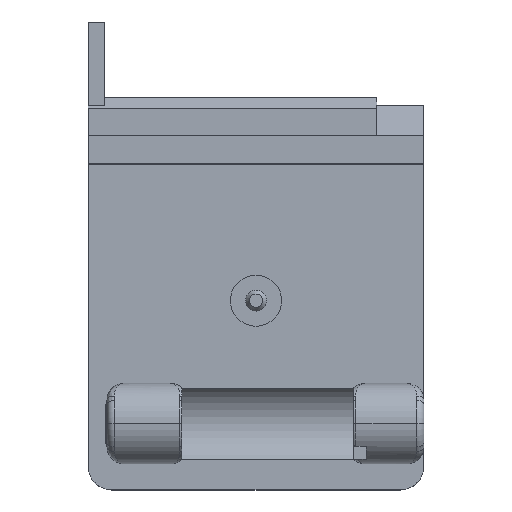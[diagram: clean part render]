
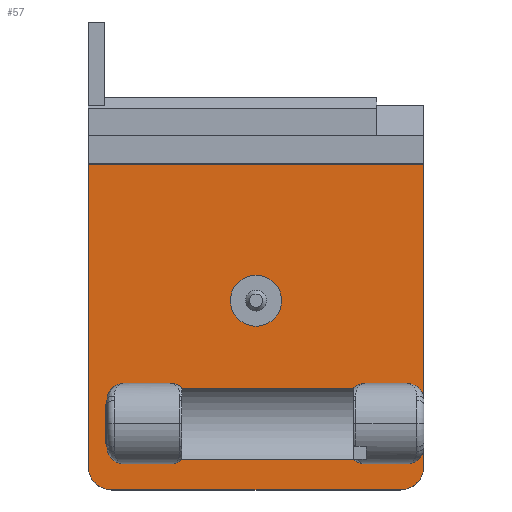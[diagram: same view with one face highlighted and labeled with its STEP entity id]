
A CAD part, top view. The second image highlights one B-rep face of the part: STEP entity #57.
In plain terms, the highlighted planar face has unit normal (0, 0, 1).
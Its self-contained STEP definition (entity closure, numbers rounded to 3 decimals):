
#21 = EDGE_CURVE('',#22,#24,#26,.T.);
#22 = VERTEX_POINT('',#23);
#23 = CARTESIAN_POINT('',(-210.,-117.5,-7.25));
#24 = VERTEX_POINT('',#25);
#25 = CARTESIAN_POINT('',(-210.,-85.57,-7.25));
#26 = LINE('',#27,#28);
#27 = CARTESIAN_POINT('',(-210.,-120.,-7.25));
#28 = VECTOR('',#29,1.);
#29 = DIRECTION('',(-0.,1.,0.));
#57 = ADVANCED_FACE('',(#58,#269),#280,.T.);
#58 = FACE_BOUND('',#59,.T.);
#59 = EDGE_LOOP('',(#60,#61,#70,#78,#87,#95,#104,#112,#121,#129,#138,
    #146,#155,#163,#171,#179,#187,#195,#204,#212,#221,#229,#238,#246,
    #255,#263));
#60 = ORIENTED_EDGE('',*,*,#21,.F.);
#61 = ORIENTED_EDGE('',*,*,#62,.T.);
#62 = EDGE_CURVE('',#22,#63,#65,.T.);
#63 = VERTEX_POINT('',#64);
#64 = CARTESIAN_POINT('',(-207.5,-120.,-7.25));
#65 = CIRCLE('',#66,2.5);
#66 = AXIS2_PLACEMENT_3D('',#67,#68,#69);
#67 = CARTESIAN_POINT('',(-207.5,-117.5,-7.25));
#68 = DIRECTION('',(0.,0.,1.));
#69 = DIRECTION('',(0.,-1.,0.));
#70 = ORIENTED_EDGE('',*,*,#71,.T.);
#71 = EDGE_CURVE('',#63,#72,#74,.T.);
#72 = VERTEX_POINT('',#73);
#73 = CARTESIAN_POINT('',(-177.,-120.,-7.25));
#74 = LINE('',#75,#76);
#75 = CARTESIAN_POINT('',(-210.,-120.,-7.25));
#76 = VECTOR('',#77,1.);
#77 = DIRECTION('',(1.,0.,-0.));
#78 = ORIENTED_EDGE('',*,*,#79,.F.);
#79 = EDGE_CURVE('',#80,#72,#82,.T.);
#80 = VERTEX_POINT('',#81);
#81 = CARTESIAN_POINT('',(-174.5,-117.5,-7.25));
#82 = CIRCLE('',#83,2.5);
#83 = AXIS2_PLACEMENT_3D('',#84,#85,#86);
#84 = CARTESIAN_POINT('',(-177.,-117.5,-7.25));
#85 = DIRECTION('',(-0.,-0.,-1.));
#86 = DIRECTION('',(0.,-1.,0.));
#87 = ORIENTED_EDGE('',*,*,#88,.T.);
#88 = EDGE_CURVE('',#80,#89,#91,.T.);
#89 = VERTEX_POINT('',#90);
#90 = CARTESIAN_POINT('',(-174.5,-115.45,-7.25));
#91 = LINE('',#92,#93);
#92 = CARTESIAN_POINT('',(-174.5,-120.,-7.25));
#93 = VECTOR('',#94,1.);
#94 = DIRECTION('',(-0.,1.,0.));
#95 = ORIENTED_EDGE('',*,*,#96,.F.);
#96 = EDGE_CURVE('',#97,#89,#99,.T.);
#97 = VERTEX_POINT('',#98);
#98 = CARTESIAN_POINT('',(-176.3,-117.25,-7.25));
#99 = CIRCLE('',#100,1.8);
#100 = AXIS2_PLACEMENT_3D('',#101,#102,#103);
#101 = CARTESIAN_POINT('',(-176.3,-115.45,-7.25));
#102 = DIRECTION('',(0.,0.,1.));
#103 = DIRECTION('',(1.,0.,-0.));
#104 = ORIENTED_EDGE('',*,*,#105,.T.);
#105 = EDGE_CURVE('',#97,#106,#108,.T.);
#106 = VERTEX_POINT('',#107);
#107 = CARTESIAN_POINT('',(-180.7,-117.25,-7.25));
#108 = LINE('',#109,#110);
#109 = CARTESIAN_POINT('',(-196.25,-117.25,-7.25));
#110 = VECTOR('',#111,1.);
#111 = DIRECTION('',(-1.,-0.,0.));
#112 = ORIENTED_EDGE('',*,*,#113,.F.);
#113 = EDGE_CURVE('',#114,#106,#116,.T.);
#114 = VERTEX_POINT('',#115);
#115 = CARTESIAN_POINT('',(-181.954,-116.742,-7.25));
#116 = CIRCLE('',#117,1.8);
#117 = AXIS2_PLACEMENT_3D('',#118,#119,#120);
#118 = CARTESIAN_POINT('',(-180.7,-115.45,-7.25));
#119 = DIRECTION('',(0.,0.,1.));
#120 = DIRECTION('',(-1.,-0.,0.));
#121 = ORIENTED_EDGE('',*,*,#122,.F.);
#122 = EDGE_CURVE('',#123,#114,#125,.T.);
#123 = VERTEX_POINT('',#124);
#124 = CARTESIAN_POINT('',(-200.046,-116.742,-7.25));
#125 = LINE('',#126,#127);
#126 = CARTESIAN_POINT('',(-200.1,-116.742,-7.25));
#127 = VECTOR('',#128,1.);
#128 = DIRECTION('',(1.,0.,0.));
#129 = ORIENTED_EDGE('',*,*,#130,.F.);
#130 = EDGE_CURVE('',#131,#123,#133,.T.);
#131 = VERTEX_POINT('',#132);
#132 = CARTESIAN_POINT('',(-201.3,-117.25,-7.25));
#133 = CIRCLE('',#134,1.8);
#134 = AXIS2_PLACEMENT_3D('',#135,#136,#137);
#135 = CARTESIAN_POINT('',(-201.3,-115.45,-7.25));
#136 = DIRECTION('',(0.,0.,1.));
#137 = DIRECTION('',(1.,0.,-0.));
#138 = ORIENTED_EDGE('',*,*,#139,.T.);
#139 = EDGE_CURVE('',#131,#140,#142,.T.);
#140 = VERTEX_POINT('',#141);
#141 = CARTESIAN_POINT('',(-206.2,-117.25,-7.25));
#142 = LINE('',#143,#144);
#143 = CARTESIAN_POINT('',(-209.,-117.25,-7.25));
#144 = VECTOR('',#145,1.);
#145 = DIRECTION('',(-1.,-0.,0.));
#146 = ORIENTED_EDGE('',*,*,#147,.F.);
#147 = EDGE_CURVE('',#148,#140,#150,.T.);
#148 = VERTEX_POINT('',#149);
#149 = CARTESIAN_POINT('',(-208.,-115.45,-7.25));
#150 = CIRCLE('',#151,1.8);
#151 = AXIS2_PLACEMENT_3D('',#152,#153,#154);
#152 = CARTESIAN_POINT('',(-206.2,-115.45,-7.25));
#153 = DIRECTION('',(0.,0.,1.));
#154 = DIRECTION('',(-1.,-0.,0.));
#155 = ORIENTED_EDGE('',*,*,#156,.T.);
#156 = EDGE_CURVE('',#148,#157,#159,.T.);
#157 = VERTEX_POINT('',#158);
#158 = CARTESIAN_POINT('',(-208.,-115.077,-7.25));
#159 = LINE('',#160,#161);
#160 = CARTESIAN_POINT('',(-208.,-118.625,-7.25));
#161 = VECTOR('',#162,1.);
#162 = DIRECTION('',(-0.,1.,0.));
#163 = ORIENTED_EDGE('',*,*,#164,.F.);
#164 = EDGE_CURVE('',#165,#157,#167,.T.);
#165 = VERTEX_POINT('',#166);
#166 = CARTESIAN_POINT('',(-208.1,-115.077,-7.25));
#167 = LINE('',#168,#169);
#168 = CARTESIAN_POINT('',(-208.1,-115.077,-7.25));
#169 = VECTOR('',#170,1.);
#170 = DIRECTION('',(1.,0.,0.));
#171 = ORIENTED_EDGE('',*,*,#172,.T.);
#172 = EDGE_CURVE('',#165,#173,#175,.T.);
#173 = VERTEX_POINT('',#174);
#174 = CARTESIAN_POINT('',(-208.1,-110.923,-7.25));
#175 = LINE('',#176,#177);
#176 = CARTESIAN_POINT('',(-208.1,-116.5,-7.25));
#177 = VECTOR('',#178,1.);
#178 = DIRECTION('',(0.,1.,0.));
#179 = ORIENTED_EDGE('',*,*,#180,.T.);
#180 = EDGE_CURVE('',#173,#181,#183,.T.);
#181 = VERTEX_POINT('',#182);
#182 = CARTESIAN_POINT('',(-208.,-110.923,-7.25));
#183 = LINE('',#184,#185);
#184 = CARTESIAN_POINT('',(-208.1,-110.923,-7.25));
#185 = VECTOR('',#186,1.);
#186 = DIRECTION('',(1.,0.,0.));
#187 = ORIENTED_EDGE('',*,*,#188,.T.);
#188 = EDGE_CURVE('',#181,#189,#191,.T.);
#189 = VERTEX_POINT('',#190);
#190 = CARTESIAN_POINT('',(-208.,-110.55,-7.25));
#191 = LINE('',#192,#193);
#192 = CARTESIAN_POINT('',(-208.,-118.625,-7.25));
#193 = VECTOR('',#194,1.);
#194 = DIRECTION('',(-0.,1.,0.));
#195 = ORIENTED_EDGE('',*,*,#196,.F.);
#196 = EDGE_CURVE('',#197,#189,#199,.T.);
#197 = VERTEX_POINT('',#198);
#198 = CARTESIAN_POINT('',(-206.2,-108.75,-7.25));
#199 = CIRCLE('',#200,1.8);
#200 = AXIS2_PLACEMENT_3D('',#201,#202,#203);
#201 = CARTESIAN_POINT('',(-206.2,-110.55,-7.25));
#202 = DIRECTION('',(0.,0.,1.));
#203 = DIRECTION('',(-1.,-0.,0.));
#204 = ORIENTED_EDGE('',*,*,#205,.F.);
#205 = EDGE_CURVE('',#206,#197,#208,.T.);
#206 = VERTEX_POINT('',#207);
#207 = CARTESIAN_POINT('',(-201.3,-108.75,-7.25));
#208 = LINE('',#209,#210);
#209 = CARTESIAN_POINT('',(-209.,-108.75,-7.25));
#210 = VECTOR('',#211,1.);
#211 = DIRECTION('',(-1.,-0.,0.));
#212 = ORIENTED_EDGE('',*,*,#213,.F.);
#213 = EDGE_CURVE('',#214,#206,#216,.T.);
#214 = VERTEX_POINT('',#215);
#215 = CARTESIAN_POINT('',(-200.046,-109.258,-7.25));
#216 = CIRCLE('',#217,1.8);
#217 = AXIS2_PLACEMENT_3D('',#218,#219,#220);
#218 = CARTESIAN_POINT('',(-201.3,-110.55,-7.25));
#219 = DIRECTION('',(0.,0.,1.));
#220 = DIRECTION('',(1.,0.,-0.));
#221 = ORIENTED_EDGE('',*,*,#222,.T.);
#222 = EDGE_CURVE('',#214,#223,#225,.T.);
#223 = VERTEX_POINT('',#224);
#224 = CARTESIAN_POINT('',(-181.954,-109.258,-7.25));
#225 = LINE('',#226,#227);
#226 = CARTESIAN_POINT('',(-200.1,-109.258,-7.25));
#227 = VECTOR('',#228,1.);
#228 = DIRECTION('',(1.,0.,0.));
#229 = ORIENTED_EDGE('',*,*,#230,.F.);
#230 = EDGE_CURVE('',#231,#223,#233,.T.);
#231 = VERTEX_POINT('',#232);
#232 = CARTESIAN_POINT('',(-180.7,-108.75,-7.25));
#233 = CIRCLE('',#234,1.8);
#234 = AXIS2_PLACEMENT_3D('',#235,#236,#237);
#235 = CARTESIAN_POINT('',(-180.7,-110.55,-7.25));
#236 = DIRECTION('',(0.,0.,1.));
#237 = DIRECTION('',(-1.,-0.,0.));
#238 = ORIENTED_EDGE('',*,*,#239,.F.);
#239 = EDGE_CURVE('',#240,#231,#242,.T.);
#240 = VERTEX_POINT('',#241);
#241 = CARTESIAN_POINT('',(-176.3,-108.75,-7.25));
#242 = LINE('',#243,#244);
#243 = CARTESIAN_POINT('',(-196.25,-108.75,-7.25));
#244 = VECTOR('',#245,1.);
#245 = DIRECTION('',(-1.,-0.,0.));
#246 = ORIENTED_EDGE('',*,*,#247,.F.);
#247 = EDGE_CURVE('',#248,#240,#250,.T.);
#248 = VERTEX_POINT('',#249);
#249 = CARTESIAN_POINT('',(-174.5,-110.55,-7.25));
#250 = CIRCLE('',#251,1.8);
#251 = AXIS2_PLACEMENT_3D('',#252,#253,#254);
#252 = CARTESIAN_POINT('',(-176.3,-110.55,-7.25));
#253 = DIRECTION('',(0.,0.,1.));
#254 = DIRECTION('',(1.,0.,-0.));
#255 = ORIENTED_EDGE('',*,*,#256,.T.);
#256 = EDGE_CURVE('',#248,#257,#259,.T.);
#257 = VERTEX_POINT('',#258);
#258 = CARTESIAN_POINT('',(-174.5,-85.57,-7.25));
#259 = LINE('',#260,#261);
#260 = CARTESIAN_POINT('',(-174.5,-120.,-7.25));
#261 = VECTOR('',#262,1.);
#262 = DIRECTION('',(-0.,1.,0.));
#263 = ORIENTED_EDGE('',*,*,#264,.T.);
#264 = EDGE_CURVE('',#257,#24,#265,.T.);
#265 = LINE('',#266,#267);
#266 = CARTESIAN_POINT('',(-210.,-85.57,-7.25));
#267 = VECTOR('',#268,1.);
#268 = DIRECTION('',(-1.,-0.,0.));
#269 = FACE_BOUND('',#270,.T.);
#270 = EDGE_LOOP('',(#271));
#271 = ORIENTED_EDGE('',*,*,#272,.F.);
#272 = EDGE_CURVE('',#273,#273,#275,.T.);
#273 = VERTEX_POINT('',#274);
#274 = CARTESIAN_POINT('',(-189.55,-100.,-7.25));
#275 = CIRCLE('',#276,2.7);
#276 = AXIS2_PLACEMENT_3D('',#277,#278,#279);
#277 = CARTESIAN_POINT('',(-192.25,-100.,-7.25));
#278 = DIRECTION('',(0.,0.,1.));
#279 = DIRECTION('',(1.,0.,-0.));
#280 = PLANE('',#281);
#281 = AXIS2_PLACEMENT_3D('',#282,#283,#284);
#282 = CARTESIAN_POINT('',(-210.,-120.,-7.25));
#283 = DIRECTION('',(0.,0.,1.));
#284 = DIRECTION('',(1.,0.,-0.));
